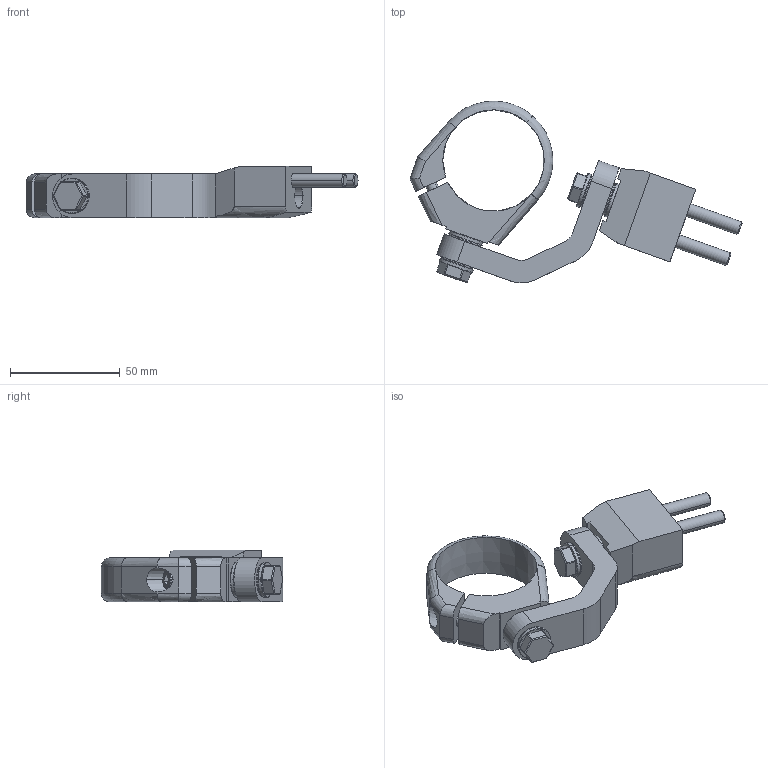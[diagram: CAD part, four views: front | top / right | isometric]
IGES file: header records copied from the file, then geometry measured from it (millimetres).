
Start section:  PTC IGES file: d58_7.igs
Global section: file name: d58_7.igs; native system: Pro/ENGINEER by Parametric Technology Corporation; preprocessor: 2007310; author: sdanet; organization: Unknown; date: 20071221.172303; units: millimetre
Bounding box: 150.93 x 82.62 x 23.53 mm (x, y, z)
Volume: 73450 mm3; surface area: 24026.1 mm2
Topology: 1 solids, 1 shells, 271 faces, 705 edges, 444 vertices
Faces by surface type: revolution 170, bspline 101
